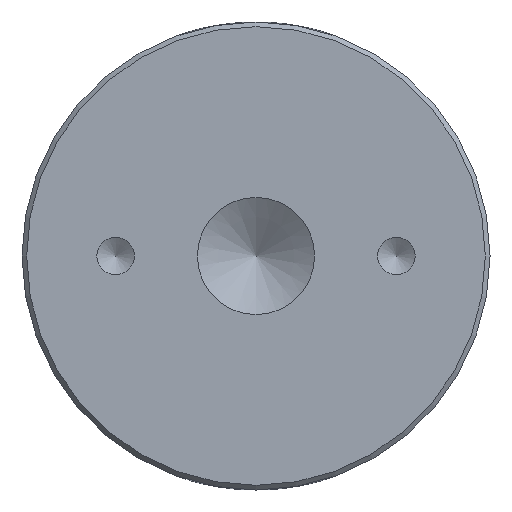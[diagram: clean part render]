
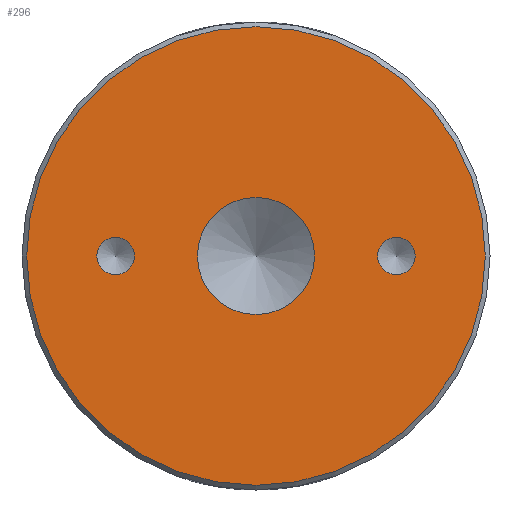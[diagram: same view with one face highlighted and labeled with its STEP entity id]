
A CAD part, front view. The second image highlights one B-rep face of the part: STEP entity #296.
In plain terms, the highlighted planar face has unit normal (0, -1, 0).
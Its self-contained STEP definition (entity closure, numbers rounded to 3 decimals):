
#181 = EDGE_LOOP ( 'NONE', ( #2038 ) ) ;
#218 = AXIS2_PLACEMENT_3D ( 'NONE', #2591, #1541, #933 ) ;
#291 = CARTESIAN_POINT ( 'NONE',  ( 6., -22.705, -0.8 ) ) ;
#292 = DIRECTION ( 'NONE',  ( 0., -1., 0. ) ) ;
#296 = ADVANCED_FACE ( 'NONE', ( #1611, #1627, #570, #789 ), #1421, .F. ) ;
#486 = CARTESIAN_POINT ( 'NONE',  ( -6., -22.705, 0. ) ) ;
#541 = EDGE_LOOP ( 'NONE', ( #636 ) ) ;
#570 = FACE_BOUND ( 'NONE', #541, .T. ) ;
#584 = CARTESIAN_POINT ( 'NONE',  ( 0., -22.705, 0. ) ) ;
#636 = ORIENTED_EDGE ( 'NONE', *, *, #2278, .F. ) ;
#713 = CARTESIAN_POINT ( 'NONE',  ( 6., -22.705, 0. ) ) ;
#789 = FACE_OUTER_BOUND ( 'NONE', #2497, .T. ) ;
#900 = EDGE_CURVE ( 'NONE', #1966, #1966, #1050, .T. ) ;
#933 = DIRECTION ( 'NONE',  ( 0., 0., 1. ) ) ;
#934 = EDGE_CURVE ( 'NONE', #1542, #1542, #2629, .T. ) ;
#974 = ORIENTED_EDGE ( 'NONE', *, *, #900, .T. ) ;
#1050 = CIRCLE ( 'NONE', #218, 9.8 ) ;
#1056 = DIRECTION ( 'NONE',  ( 0., 0., -1. ) ) ;
#1175 = VERTEX_POINT ( 'NONE', #1412 ) ;
#1319 = DIRECTION ( 'NONE',  ( 0., -1., 0. ) ) ;
#1383 = EDGE_CURVE ( 'NONE', #2634, #2634, #1622, .T. ) ;
#1384 = CARTESIAN_POINT ( 'NONE',  ( -6., -22.705, -0.8 ) ) ;
#1401 = AXIS2_PLACEMENT_3D ( 'NONE', #486, #292, #1954 ) ;
#1412 = CARTESIAN_POINT ( 'NONE',  ( 0., -22.705, -2.5 ) ) ;
#1421 = PLANE ( 'NONE',  #2112 ) ;
#1440 = CARTESIAN_POINT ( 'NONE',  ( 0., -22.705, 0. ) ) ;
#1496 = AXIS2_PLACEMENT_3D ( 'NONE', #713, #1319, #1578 ) ;
#1541 = DIRECTION ( 'NONE',  ( 0., -1., 0. ) ) ;
#1542 = VERTEX_POINT ( 'NONE', #291 ) ;
#1578 = DIRECTION ( 'NONE',  ( 0., 0., -1. ) ) ;
#1611 = FACE_BOUND ( 'NONE', #1757, .T. ) ;
#1622 = CIRCLE ( 'NONE', #1401, 0.8 ) ;
#1627 = FACE_BOUND ( 'NONE', #181, .T. ) ;
#1757 = EDGE_LOOP ( 'NONE', ( #2066 ) ) ;
#1954 = DIRECTION ( 'NONE',  ( 0., 0., -1. ) ) ;
#1966 = VERTEX_POINT ( 'NONE', #2593 ) ;
#2038 = ORIENTED_EDGE ( 'NONE', *, *, #1383, .F. ) ;
#2066 = ORIENTED_EDGE ( 'NONE', *, *, #934, .F. ) ;
#2112 = AXIS2_PLACEMENT_3D ( 'NONE', #584, #2436, #2276 ) ;
#2161 = AXIS2_PLACEMENT_3D ( 'NONE', #1440, #2283, #1056 ) ;
#2276 = DIRECTION ( 'NONE',  ( 0., 0., 1. ) ) ;
#2278 = EDGE_CURVE ( 'NONE', #1175, #1175, #2289, .T. ) ;
#2283 = DIRECTION ( 'NONE',  ( 0., -1., 0. ) ) ;
#2289 = CIRCLE ( 'NONE', #2161, 2.5 ) ;
#2436 = DIRECTION ( 'NONE',  ( 0., 1., 0. ) ) ;
#2497 = EDGE_LOOP ( 'NONE', ( #974 ) ) ;
#2591 = CARTESIAN_POINT ( 'NONE',  ( 0., -22.705, 0. ) ) ;
#2593 = CARTESIAN_POINT ( 'NONE',  ( 0., -22.705, 9.8 ) ) ;
#2629 = CIRCLE ( 'NONE', #1496, 0.8 ) ;
#2634 = VERTEX_POINT ( 'NONE', #1384 ) ;
